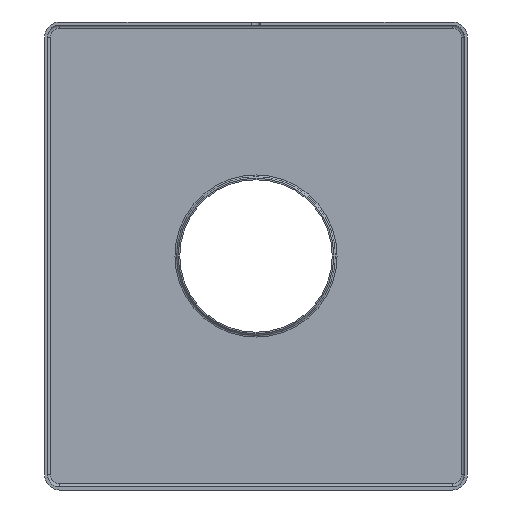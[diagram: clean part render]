
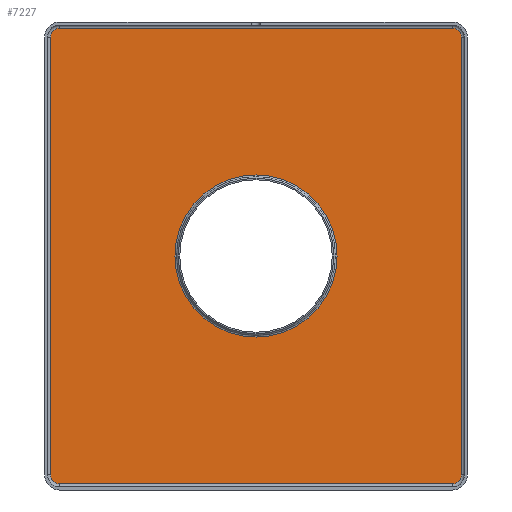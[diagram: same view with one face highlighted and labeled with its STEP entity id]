
A CAD part, front view. The second image highlights one B-rep face of the part: STEP entity #7227.
In plain terms, the highlighted planar face has unit normal (0, -1, 0).
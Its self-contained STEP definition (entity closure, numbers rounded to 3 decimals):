
#30=FACE_BOUND('',#1131,.T.);
#115=CIRCLE('',#7473,26.85);
#116=CIRCLE('',#7474,26.85);
#117=CIRCLE('',#7476,3.);
#118=CIRCLE('',#7477,3.);
#119=CIRCLE('',#7478,3.);
#120=CIRCLE('',#7479,3.);
#327=PLANE('',#7475);
#715=FACE_OUTER_BOUND('',#1130,.T.);
#1130=EDGE_LOOP('',(#6146,#6147,#6148,#6149,#6150,#6151,#6152,#6153));
#1131=EDGE_LOOP('',(#6154,#6155));
#1761=LINE('',#13407,#2336);
#1762=LINE('',#13411,#2337);
#1763=LINE('',#13415,#2338);
#1764=LINE('',#13419,#2339);
#2336=VECTOR('',#8456,10.);
#2337=VECTOR('',#8459,10.);
#2338=VECTOR('',#8462,10.);
#2339=VECTOR('',#8465,10.);
#3439=VERTEX_POINT('',#13399);
#3440=VERTEX_POINT('',#13401);
#3441=VERTEX_POINT('',#13405);
#3442=VERTEX_POINT('',#13406);
#3443=VERTEX_POINT('',#13408);
#3444=VERTEX_POINT('',#13410);
#3445=VERTEX_POINT('',#13412);
#3446=VERTEX_POINT('',#13414);
#3447=VERTEX_POINT('',#13416);
#3448=VERTEX_POINT('',#13418);
#4454=EDGE_CURVE('',#3440,#3439,#115,.T.);
#4455=EDGE_CURVE('',#3439,#3440,#116,.T.);
#4456=EDGE_CURVE('',#3441,#3442,#1761,.T.);
#4457=EDGE_CURVE('',#3442,#3443,#117,.T.);
#4458=EDGE_CURVE('',#3443,#3444,#1762,.T.);
#4459=EDGE_CURVE('',#3444,#3445,#118,.T.);
#4460=EDGE_CURVE('',#3445,#3446,#1763,.T.);
#4461=EDGE_CURVE('',#3446,#3447,#119,.T.);
#4462=EDGE_CURVE('',#3447,#3448,#1764,.T.);
#4463=EDGE_CURVE('',#3448,#3441,#120,.T.);
#6146=ORIENTED_EDGE('',*,*,#4456,.T.);
#6147=ORIENTED_EDGE('',*,*,#4457,.T.);
#6148=ORIENTED_EDGE('',*,*,#4458,.T.);
#6149=ORIENTED_EDGE('',*,*,#4459,.T.);
#6150=ORIENTED_EDGE('',*,*,#4460,.T.);
#6151=ORIENTED_EDGE('',*,*,#4461,.T.);
#6152=ORIENTED_EDGE('',*,*,#4462,.T.);
#6153=ORIENTED_EDGE('',*,*,#4463,.T.);
#6154=ORIENTED_EDGE('',*,*,#4454,.T.);
#6155=ORIENTED_EDGE('',*,*,#4455,.T.);
#7227=ADVANCED_FACE('',(#715,#30),#327,.F.);
#7473=AXIS2_PLACEMENT_3D('',#13402,#8450,#8451);
#7474=AXIS2_PLACEMENT_3D('',#13403,#8452,#8453);
#7475=AXIS2_PLACEMENT_3D('',#13404,#8454,#8455);
#7476=AXIS2_PLACEMENT_3D('',#13409,#8457,#8458);
#7477=AXIS2_PLACEMENT_3D('',#13413,#8460,#8461);
#7478=AXIS2_PLACEMENT_3D('',#13417,#8463,#8464);
#7479=AXIS2_PLACEMENT_3D('',#13420,#8466,#8467);
#8450=DIRECTION('center_axis',(0.,1.,0.));
#8451=DIRECTION('ref_axis',(-1.,0.,0.));
#8452=DIRECTION('center_axis',(0.,1.,0.));
#8453=DIRECTION('ref_axis',(-1.,0.,0.));
#8454=DIRECTION('center_axis',(0.,1.,0.));
#8455=DIRECTION('ref_axis',(0.,0.,1.));
#8456=DIRECTION('',(-1.,0.,0.));
#8457=DIRECTION('center_axis',(0.,-1.,0.));
#8458=DIRECTION('ref_axis',(-0.707,0.,0.707));
#8459=DIRECTION('',(0.,0.,-1.));
#8460=DIRECTION('center_axis',(0.,-1.,0.));
#8461=DIRECTION('ref_axis',(-0.707,0.,-0.707));
#8462=DIRECTION('',(1.,0.,0.));
#8463=DIRECTION('center_axis',(0.,-1.,0.));
#8464=DIRECTION('ref_axis',(0.707,0.,-0.707));
#8465=DIRECTION('',(0.,0.,1.));
#8466=DIRECTION('center_axis',(0.,-1.,0.));
#8467=DIRECTION('ref_axis',(0.707,0.,0.707));
#13399=CARTESIAN_POINT('',(0.,11.,26.85));
#13401=CARTESIAN_POINT('',(26.85,11.,0.));
#13402=CARTESIAN_POINT('Origin',(0.,11.,0.));
#13403=CARTESIAN_POINT('Origin',(0.,11.,0.));
#13404=CARTESIAN_POINT('Origin',(-70.,11.,0.));
#13405=CARTESIAN_POINT('',(65.,11.,75.5));
#13406=CARTESIAN_POINT('',(-65.,11.,75.5));
#13407=CARTESIAN_POINT('',(-35.,11.,75.5));
#13408=CARTESIAN_POINT('',(-68.,11.,72.5));
#13409=CARTESIAN_POINT('Origin',(-65.,11.,72.5));
#13410=CARTESIAN_POINT('',(-68.,11.,-72.5));
#13411=CARTESIAN_POINT('',(-68.,11.,0.));
#13412=CARTESIAN_POINT('',(-65.,11.,-75.5));
#13413=CARTESIAN_POINT('Origin',(-65.,11.,-72.5));
#13414=CARTESIAN_POINT('',(65.,11.,-75.5));
#13415=CARTESIAN_POINT('',(-35.,11.,-75.5));
#13416=CARTESIAN_POINT('',(68.,11.,-72.5));
#13417=CARTESIAN_POINT('Origin',(65.,11.,-72.5));
#13418=CARTESIAN_POINT('',(68.,11.,72.5));
#13419=CARTESIAN_POINT('',(68.,11.,0.));
#13420=CARTESIAN_POINT('Origin',(65.,11.,72.5));
